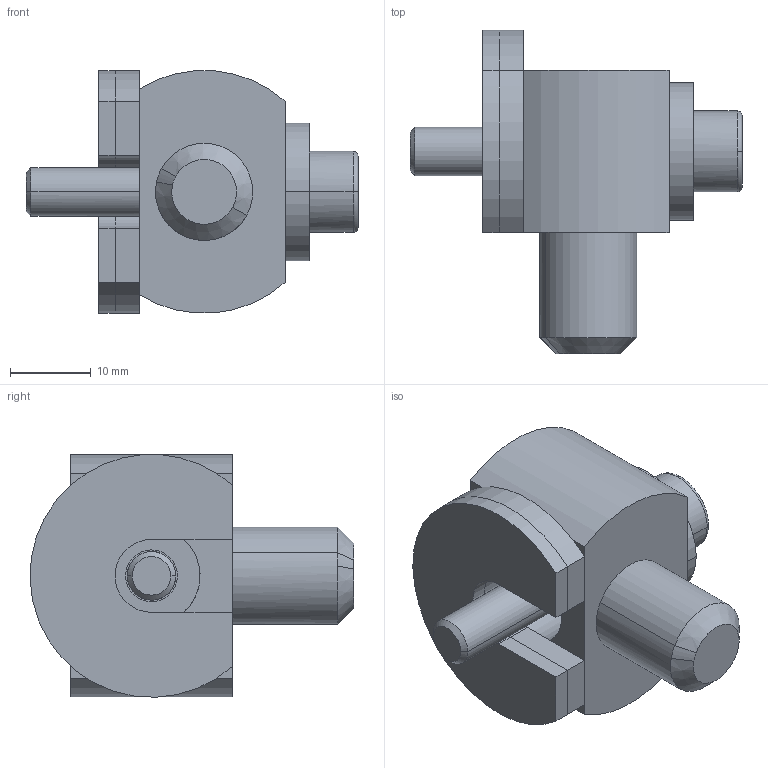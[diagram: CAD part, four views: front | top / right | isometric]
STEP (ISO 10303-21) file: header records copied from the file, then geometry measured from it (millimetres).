
FILE_DESCRIPTION(('CATIA V5 STEP Exchange'),'2;1');
FILE_NAME('Y:\DATA-MECHANUS\PRODUKTY-NORMALIE-SKLAD\SERIZOVACI PRVKY\SERIZOVACI KAMENY_pod zakazkou 17-2014\Mechanus--serizovaci kamen M6 sada--(3035-S).stp','2022-08-19T07:07:08+00:00',('none'),('none'),'CATIA Version 5 Release 19 GA (IN-10)','CATIA V5 STEP AP203','none');
FILE_SCHEMA(('CONFIG_CONTROL_DESIGN'));
Length unit declared in the file: millimetre
Products named in the file (1): Mechanus--serizovaci kamen M6 sada--(3035-S)
Bounding box: 41 x 39.99 x 29.95 mm (x, y, z)
Volume: 14172.1 mm3; surface area: 7991.7 mm2
Topology: 5 solids, 5 shells, 64 faces, 145 edges, 93 vertices
Faces by surface type: plane 29, cylinder 22, cone 9, bspline 4
Entity records: 2014 total; most frequent: CARTESIAN_POINT 640, ORIENTED_EDGE 286, DIRECTION 226, EDGE_CURVE 143, AXIS2_PLACEMENT_3D 97, VERTEX_POINT 93, VECTOR 72, EDGE_LOOP 72
